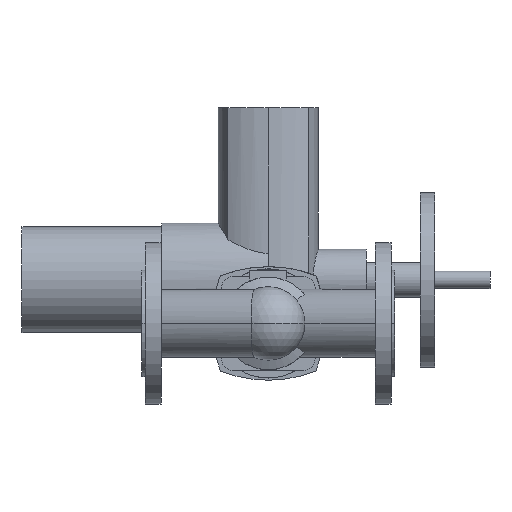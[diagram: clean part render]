
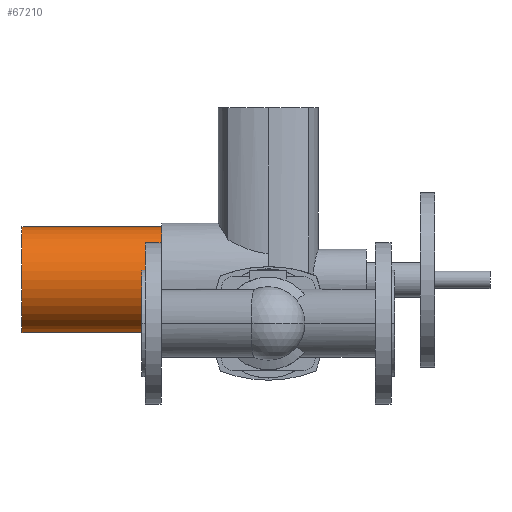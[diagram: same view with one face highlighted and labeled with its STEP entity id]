
A CAD part, front view. The second image highlights one B-rep face of the part: STEP entity #67210.
In plain terms, the highlighted cylindrical face has radius 60.5 mm (diameter 121 mm), a partial arc.
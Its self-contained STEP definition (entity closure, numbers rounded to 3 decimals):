
#66800=CARTESIAN_POINT('',(-57.,447.,50.));
#66810=DIRECTION('',(1.,0.,0.));
#66820=DIRECTION('',(0.,0.,-1.));
#66830=AXIS2_PLACEMENT_3D('',#66800,#66810,#66820);
#66840=CYLINDRICAL_SURFACE('',#66830,60.5);
#66850=CARTESIAN_POINT('',(-57.,447.,-10.5));
#66860=DIRECTION('',(1.,0.,0.));
#66870=VECTOR('',#66860,1.);
#66880=LINE('',#66850,#66870);
#66890=CARTESIAN_POINT('',(-137.,447.,-10.5));
#66900=VERTEX_POINT('',#66890);
#66910=CARTESIAN_POINT('',(23.,447.,-10.5));
#66920=VERTEX_POINT('',#66910);
#66930=EDGE_CURVE('',#66900,#66920,#66880,.T.);
#66940=ORIENTED_EDGE('',*,*,#66930,.T.);
#66950=CARTESIAN_POINT('',(-137.,447.,50.));
#66960=DIRECTION('',(-1.,0.,0.));
#66970=DIRECTION('',(0.,0.,-1.));
#66980=AXIS2_PLACEMENT_3D('',#66950,#66960,#66970);
#66990=CIRCLE('',#66980,60.5);
#67000=CARTESIAN_POINT('',(-137.,447.,110.5));
#67010=VERTEX_POINT('',#67000);
#67020=EDGE_CURVE('',#66900,#67010,#66990,.T.);
#67030=ORIENTED_EDGE('',*,*,#67020,.F.);
#67040=CARTESIAN_POINT('',(-57.,447.,110.5));
#67050=DIRECTION('',(1.,0.,0.));
#67060=VECTOR('',#67050,1.);
#67070=LINE('',#67040,#67060);
#67080=CARTESIAN_POINT('',(23.,447.,110.5));
#67090=VERTEX_POINT('',#67080);
#67100=EDGE_CURVE('',#67010,#67090,#67070,.T.);
#67110=ORIENTED_EDGE('',*,*,#67100,.F.);
#67120=CARTESIAN_POINT('',(23.,447.,50.));
#67130=DIRECTION('',(-1.,0.,0.));
#67140=DIRECTION('',(0.,0.,-1.));
#67150=AXIS2_PLACEMENT_3D('',#67120,#67130,#67140);
#67160=CIRCLE('',#67150,60.5);
#67170=EDGE_CURVE('',#66920,#67090,#67160,.T.);
#67180=ORIENTED_EDGE('',*,*,#67170,.T.);
#67190=EDGE_LOOP('',(#67180,#67110,#67030,#66940));
#67200=FACE_OUTER_BOUND('',#67190,.T.);
#67210=ADVANCED_FACE('',(#67200),#66840,.T.);
